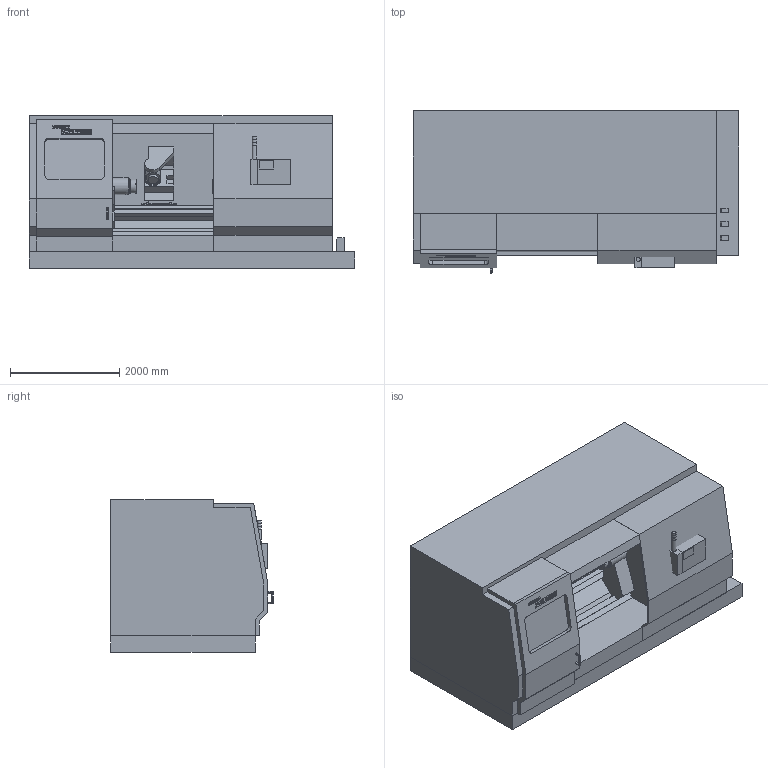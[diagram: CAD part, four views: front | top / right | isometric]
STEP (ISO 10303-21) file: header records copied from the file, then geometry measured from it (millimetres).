
FILE_DESCRIPTION(/* description */ (''),/* implementation_level */ '2;1');
FILE_NAME(/* name */ 'C:\Users\PreVu3D\Desktop\Assembly1_bis.stp',/* time_stamp */ '2019-06-20T18:09:16-04:00',/* author */ ('PreVu3D'),/* organization */ (''),/* preprocessor_version */ 'ST-DEVELOPER v17',/* originating_system */ 'Autodesk Inventor 2019',/* authorisation */ '');
FILE_SCHEMA (('CONFIG_CONTROL_DESIGN'));
Length unit declared in the file: inch
Products named in the file (2): Assembly1; DOOSAN PUMA MX3000
Assembly tree (1 placements, depth 2):
  Assembly1
    DOOSAN PUMA MX3000
Bounding box: 5943.6 x 2971.8 x 2794 mm (x, y, z)
Volume: 32962307096.8 mm3; surface area: 173246862.9 mm2
Topology: 60 solids, 60 shells, 1163 faces, 3055 edges, 2008 vertices
Faces by surface type: plane 806, cylinder 136, bspline 114, cone 79, sphere 20, torus 8
Full cylindrical faces by diameter (mm): 10.084 x12, 13.492 x4, 15.875 x12, 20.638 x4, 25.4 x3, 50.8 x3, 54.086 x1, 76.2 x4, 182.88 x2, 229.125 x1, 254 x4, 279.4 x3, 304.8 x2
Entity records: 40269 total; most frequent: CARTESIAN_POINT 11659, ORIENTED_EDGE 6070, DIRECTION 5430, EDGE_CURVE 3035, VERTEX_POINT 2008, LINE 1972, VECTOR 1972, AXIS2_PLACEMENT_3D 1729
